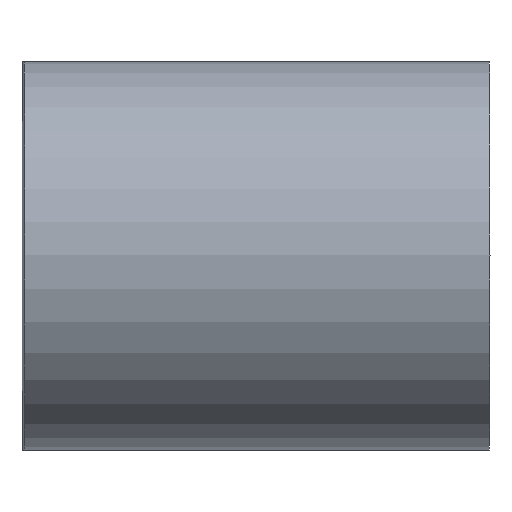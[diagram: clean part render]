
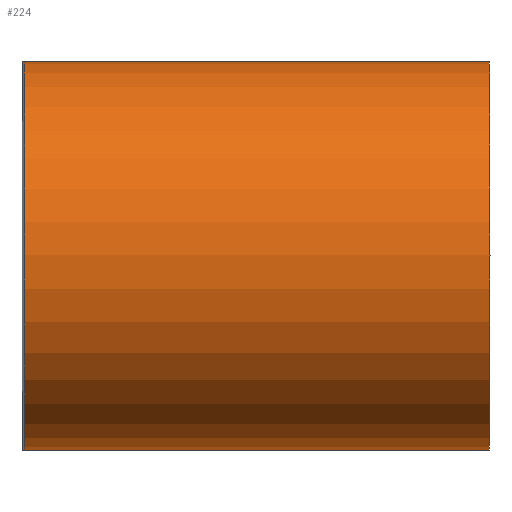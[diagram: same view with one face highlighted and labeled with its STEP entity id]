
A CAD part, top view. The second image highlights one B-rep face of the part: STEP entity #224.
In plain terms, the highlighted free-form (B-spline) face has degree [5, 3] with [6, 8] control points.
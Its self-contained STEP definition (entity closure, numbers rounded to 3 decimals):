
#128=FACE_OUTER_BOUND('',#251,.T.);
#133=(
BOUNDED_SURFACE()
B_SPLINE_SURFACE(5,3,((#843,#844,#845,#846,#847,#848,#849,#850),(#851,#852,
#853,#854,#855,#856,#857,#858),(#859,#860,#861,#862,#863,#864,#865,#866),
(#867,#868,#869,#870,#871,#872,#873,#874),(#875,#876,#877,#878,#879,#880,
#881,#882),(#883,#884,#885,#886,#887,#888,#889,#890)),.UNSPECIFIED.,.F.,
 .F.,.F.)
B_SPLINE_SURFACE_WITH_KNOTS((6,6),(4,2,2,4),(0.,1.),(0.,0.083,
0.917,1.),.UNSPECIFIED.)
GEOMETRIC_REPRESENTATION_ITEM()
RATIONAL_B_SPLINE_SURFACE(((1.,1.,1.,1.,1.,1.,1.,1.),(0.6,0.6,0.6,0.6,0.6,
0.6,0.6,0.6),(0.4,0.4,0.4,0.4,0.4,0.4,0.4,0.4),(0.4,0.4,0.4,0.4,0.4,0.4,
0.4,0.4),(0.6,0.6,0.6,0.6,0.6,0.6,0.6,0.6),(1.,1.,1.,1.,1.,1.,1.,1.)))
REPRESENTATION_ITEM('')
SURFACE()
);
#137=CIRCLE('',#424,190.253);
#141=CIRCLE('',#429,190.253);
#174=LINE('',#841,#208);
#175=LINE('',#842,#209);
#208=VECTOR('',#519,1.);
#209=VECTOR('',#520,1.);
#224=ADVANCED_FACE('',(#128),#133,.T.);
#251=EDGE_LOOP('',(#330,#331,#332,#333));
#330=ORIENTED_EDGE('',*,*,#415,.F.);
#331=ORIENTED_EDGE('',*,*,#402,.T.);
#332=ORIENTED_EDGE('',*,*,#416,.F.);
#333=ORIENTED_EDGE('',*,*,#382,.T.);
#352=VERTEX_POINT('',#775);
#353=VERTEX_POINT('',#777);
#370=VERTEX_POINT('',#814);
#371=VERTEX_POINT('',#816);
#382=EDGE_CURVE('',#353,#352,#137,.T.);
#402=EDGE_CURVE('',#371,#370,#141,.T.);
#415=EDGE_CURVE('',#371,#352,#174,.T.);
#416=EDGE_CURVE('',#353,#370,#175,.T.);
#424=AXIS2_PLACEMENT_3D('',#776,#457,#458);
#429=AXIS2_PLACEMENT_3D('',#815,#483,#484);
#457=DIRECTION('',(1.,0.,-0.004));
#458=DIRECTION('',(0.,1.,0.));
#483=DIRECTION('',(-1.,0.,0.004));
#484=DIRECTION('',(0.,-1.,0.));
#519=DIRECTION('',(-1.,0.,0.004));
#520=DIRECTION('',(1.,0.,-0.004));
#775=CARTESIAN_POINT('',(11968.466,-196.419,11.022));
#776=CARTESIAN_POINT('',(11968.466,-6.166,11.091));
#777=CARTESIAN_POINT('',(11968.466,184.087,11.16));
#814=CARTESIAN_POINT('',(12423.909,184.087,9.485));
#815=CARTESIAN_POINT('',(12423.909,-6.165,9.416));
#816=CARTESIAN_POINT('',(12423.909,-196.418,9.347));
#841=CARTESIAN_POINT('',(12196.188,-196.418,10.185));
#842=CARTESIAN_POINT('',(12196.187,184.087,10.322));
#843=CARTESIAN_POINT('',(11922.922,184.086,11.327));
#844=CARTESIAN_POINT('',(11938.103,184.086,11.271));
#845=CARTESIAN_POINT('',(11953.285,184.087,11.216));
#846=CARTESIAN_POINT('',(12120.28,184.087,10.601));
#847=CARTESIAN_POINT('',(12272.095,184.087,10.043));
#848=CARTESIAN_POINT('',(12439.09,184.087,9.429));
#849=CARTESIAN_POINT('',(12454.272,184.087,9.373));
#850=CARTESIAN_POINT('',(12469.453,184.087,9.317));
#851=CARTESIAN_POINT('',(11923.388,184.041,138.162));
#852=CARTESIAN_POINT('',(11938.57,184.041,138.106));
#853=CARTESIAN_POINT('',(11953.751,184.041,138.05));
#854=CARTESIAN_POINT('',(12120.747,184.041,137.436));
#855=CARTESIAN_POINT('',(12272.561,184.041,136.877));
#856=CARTESIAN_POINT('',(12439.557,184.042,136.263));
#857=CARTESIAN_POINT('',(12454.738,184.042,136.207));
#858=CARTESIAN_POINT('',(12469.919,184.042,136.151));
#859=CARTESIAN_POINT('',(11923.972,88.857,296.67));
#860=CARTESIAN_POINT('',(11939.153,88.857,296.614));
#861=CARTESIAN_POINT('',(11954.334,88.857,296.558));
#862=CARTESIAN_POINT('',(12121.33,88.858,295.944));
#863=CARTESIAN_POINT('',(12273.144,88.858,295.386));
#864=CARTESIAN_POINT('',(12440.14,88.858,294.772));
#865=CARTESIAN_POINT('',(12455.321,88.858,294.716));
#866=CARTESIAN_POINT('',(12470.503,88.858,294.66));
#867=CARTESIAN_POINT('',(11923.972,-101.395,296.601));
#868=CARTESIAN_POINT('',(11939.153,-101.395,296.545));
#869=CARTESIAN_POINT('',(11954.334,-101.395,296.49));
#870=CARTESIAN_POINT('',(12121.33,-101.395,295.875));
#871=CARTESIAN_POINT('',(12273.144,-101.395,295.317));
#872=CARTESIAN_POINT('',(12440.14,-101.394,294.703));
#873=CARTESIAN_POINT('',(12455.321,-101.394,294.647));
#874=CARTESIAN_POINT('',(12470.503,-101.394,294.591));
#875=CARTESIAN_POINT('',(11923.389,-196.465,138.024));
#876=CARTESIAN_POINT('',(11938.57,-196.465,137.968));
#877=CARTESIAN_POINT('',(11953.751,-196.464,137.913));
#878=CARTESIAN_POINT('',(12120.747,-196.464,137.298));
#879=CARTESIAN_POINT('',(12272.561,-196.464,136.74));
#880=CARTESIAN_POINT('',(12439.557,-196.464,136.126));
#881=CARTESIAN_POINT('',(12454.738,-196.464,136.07));
#882=CARTESIAN_POINT('',(12469.92,-196.464,136.014));
#883=CARTESIAN_POINT('',(11922.922,-196.419,11.19));
#884=CARTESIAN_POINT('',(11938.103,-196.419,11.134));
#885=CARTESIAN_POINT('',(11953.285,-196.419,11.078));
#886=CARTESIAN_POINT('',(12120.281,-196.418,10.464));
#887=CARTESIAN_POINT('',(12272.095,-196.418,9.906));
#888=CARTESIAN_POINT('',(12439.09,-196.418,9.292));
#889=CARTESIAN_POINT('',(12454.272,-196.418,9.236));
#890=CARTESIAN_POINT('',(12469.453,-196.418,9.18));
